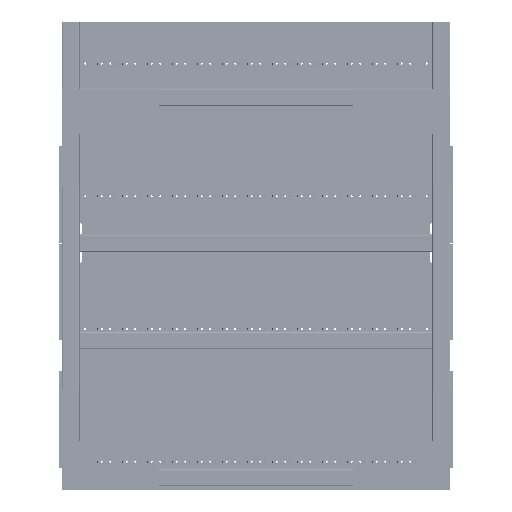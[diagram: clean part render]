
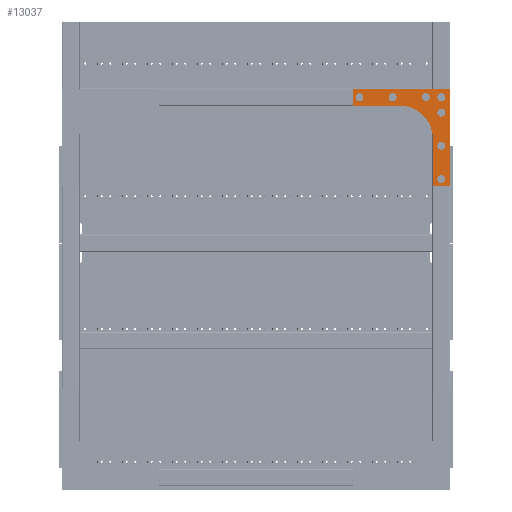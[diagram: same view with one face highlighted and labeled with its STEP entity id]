
A CAD part, left-side view. The second image highlights one B-rep face of the part: STEP entity #13037.
In plain terms, the highlighted planar face has unit normal (-1, 0, 0).
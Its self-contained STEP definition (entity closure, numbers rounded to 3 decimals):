
#13037=ADVANCED_FACE('',(#53698,#53699,#53700,#53701,#53702,#53703,#53704,
#53705),#19131,.F.);
#19131=PLANE('',#155181);
#29628=LINE('',#225011,#43846);
#29631=LINE('',#225017,#43849);
#29634=LINE('',#225023,#43852);
#29637=LINE('',#225029,#43855);
#29639=LINE('',#225033,#43857);
#29644=LINE('',#225043,#43862);
#43846=VECTOR('',#183819,1.);
#43849=VECTOR('',#183824,1.);
#43852=VECTOR('',#183829,1.);
#43855=VECTOR('',#183834,1.);
#43857=VECTOR('',#183838,1.);
#43862=VECTOR('',#183845,1.);
#53698=FACE_BOUND('',#63945,.T.);
#53699=FACE_BOUND('',#63946,.T.);
#53700=FACE_BOUND('',#63947,.T.);
#53701=FACE_BOUND('',#63948,.T.);
#53702=FACE_BOUND('',#63949,.T.);
#53703=FACE_BOUND('',#63950,.T.);
#53704=FACE_BOUND('',#63951,.T.);
#53705=FACE_BOUND('',#63952,.T.);
#63945=EDGE_LOOP('',(#92120));
#63946=EDGE_LOOP('',(#92121));
#63947=EDGE_LOOP('',(#92122));
#63948=EDGE_LOOP('',(#92123));
#63949=EDGE_LOOP('',(#92124));
#63950=EDGE_LOOP('',(#92125));
#63951=EDGE_LOOP('',(#92126));
#63952=EDGE_LOOP('',(#92127,#92128,#92129,#92130,#92131,#92132,#92133));
#92120=ORIENTED_EDGE('',*,*,#134215,.T.);
#92121=ORIENTED_EDGE('',*,*,#134216,.T.);
#92122=ORIENTED_EDGE('',*,*,#134217,.T.);
#92123=ORIENTED_EDGE('',*,*,#134218,.T.);
#92124=ORIENTED_EDGE('',*,*,#134219,.T.);
#92125=ORIENTED_EDGE('',*,*,#134220,.T.);
#92126=ORIENTED_EDGE('',*,*,#134221,.T.);
#92127=ORIENTED_EDGE('',*,*,#134198,.F.);
#92128=ORIENTED_EDGE('',*,*,#134214,.F.);
#92129=ORIENTED_EDGE('',*,*,#134222,.T.);
#92130=ORIENTED_EDGE('',*,*,#134209,.F.);
#92131=ORIENTED_EDGE('',*,*,#134207,.F.);
#92132=ORIENTED_EDGE('',*,*,#134204,.F.);
#92133=ORIENTED_EDGE('',*,*,#134201,.F.);
#116809=VERTEX_POINT('',#225010);
#116810=VERTEX_POINT('',#225012);
#116812=VERTEX_POINT('',#225018);
#116814=VERTEX_POINT('',#225024);
#116816=VERTEX_POINT('',#225030);
#116817=VERTEX_POINT('',#225034);
#116820=VERTEX_POINT('',#225042);
#116821=VERTEX_POINT('',#225046);
#116822=VERTEX_POINT('',#225048);
#116823=VERTEX_POINT('',#225050);
#116824=VERTEX_POINT('',#225052);
#116825=VERTEX_POINT('',#225054);
#116826=VERTEX_POINT('',#225056);
#116827=VERTEX_POINT('',#225058);
#134198=EDGE_CURVE('',#116809,#116810,#29628,.T.);
#134201=EDGE_CURVE('',#116810,#116812,#29631,.T.);
#134204=EDGE_CURVE('',#116812,#116814,#29634,.T.);
#134207=EDGE_CURVE('',#116814,#116816,#29637,.T.);
#134209=EDGE_CURVE('',#116816,#116817,#29639,.T.);
#134214=EDGE_CURVE('',#116820,#116809,#29644,.T.);
#134215=EDGE_CURVE('',#116821,#116821,#145357,.T.);
#134216=EDGE_CURVE('',#116822,#116822,#145358,.T.);
#134217=EDGE_CURVE('',#116823,#116823,#145359,.T.);
#134218=EDGE_CURVE('',#116824,#116824,#145360,.T.);
#134219=EDGE_CURVE('',#116825,#116825,#145361,.T.);
#134220=EDGE_CURVE('',#116826,#116826,#145362,.T.);
#134221=EDGE_CURVE('',#116827,#116827,#145363,.T.);
#134222=EDGE_CURVE('',#116820,#116817,#145364,.T.);
#145357=CIRCLE('',#155173,9.);
#145358=CIRCLE('',#155174,9.);
#145359=CIRCLE('',#155175,9.);
#145360=CIRCLE('',#155176,9.);
#145361=CIRCLE('',#155177,9.);
#145362=CIRCLE('',#155178,9.);
#145363=CIRCLE('',#155179,9.);
#145364=CIRCLE('',#155180,75.);
#155173=AXIS2_PLACEMENT_3D('',#225045,#183848,#183849);
#155174=AXIS2_PLACEMENT_3D('',#225047,#183850,#183851);
#155175=AXIS2_PLACEMENT_3D('',#225049,#183852,#183853);
#155176=AXIS2_PLACEMENT_3D('',#225051,#183854,#183855);
#155177=AXIS2_PLACEMENT_3D('',#225053,#183856,#183857);
#155178=AXIS2_PLACEMENT_3D('',#225055,#183858,#183859);
#155179=AXIS2_PLACEMENT_3D('',#225057,#183860,#183861);
#155180=AXIS2_PLACEMENT_3D('',#225059,#183862,#183863);
#155181=AXIS2_PLACEMENT_3D('',#225060,#183864,#183865);
#183819=DIRECTION('',(0.,0.,1.));
#183824=DIRECTION('',(0.,-1.,0.));
#183829=DIRECTION('',(0.,0.,-1.));
#183834=DIRECTION('',(0.,1.,0.));
#183838=DIRECTION('',(0.,0.,1.));
#183845=DIRECTION('',(0.,1.,0.));
#183848=DIRECTION('',(1.,0.,0.));
#183849=DIRECTION('',(0.,0.,1.));
#183850=DIRECTION('',(1.,0.,0.));
#183851=DIRECTION('',(0.,0.,1.));
#183852=DIRECTION('',(1.,0.,0.));
#183853=DIRECTION('',(0.,0.,1.));
#183854=DIRECTION('',(1.,0.,0.));
#183855=DIRECTION('',(0.,0.,1.));
#183856=DIRECTION('',(1.,0.,0.));
#183857=DIRECTION('',(0.,0.,1.));
#183858=DIRECTION('',(1.,0.,0.));
#183859=DIRECTION('',(0.,0.,1.));
#183860=DIRECTION('',(1.,0.,0.));
#183861=DIRECTION('',(0.,0.,1.));
#183862=DIRECTION('',(1.,0.,0.));
#183863=DIRECTION('',(0.,0.,1.));
#183864=DIRECTION('',(1.,0.,0.));
#183865=DIRECTION('',(0.,0.,1.));
#225010=CARTESIAN_POINT('',(-908.,-219.,336.));
#225011=CARTESIAN_POINT('',(-908.,-219.,336.));
#225012=CARTESIAN_POINT('',(-908.,-219.,374.));
#225017=CARTESIAN_POINT('',(-908.,0.,374.));
#225018=CARTESIAN_POINT('',(-908.,-438.,374.));
#225023=CARTESIAN_POINT('',(-908.,-438.,-70.));
#225024=CARTESIAN_POINT('',(-908.,-438.,155.));
#225029=CARTESIAN_POINT('',(-908.,-439.,155.));
#225030=CARTESIAN_POINT('',(-908.,-400.,155.));
#225033=CARTESIAN_POINT('',(-908.,-400.,155.));
#225034=CARTESIAN_POINT('',(-908.,-400.,261.));
#225042=CARTESIAN_POINT('',(-908.,-325.,336.));
#225043=CARTESIAN_POINT('',(-908.,-400.,336.));
#225045=CARTESIAN_POINT('',(-908.,-384.,355.));
#225046=CARTESIAN_POINT('',(-908.,-384.,364.));
#225047=CARTESIAN_POINT('',(-908.,-234.,355.));
#225048=CARTESIAN_POINT('',(-908.,-234.,364.));
#225049=CARTESIAN_POINT('',(-908.,-309.,355.));
#225050=CARTESIAN_POINT('',(-908.,-309.,364.));
#225051=CARTESIAN_POINT('',(-908.,-419.,170.));
#225052=CARTESIAN_POINT('',(-908.,-419.,179.));
#225053=CARTESIAN_POINT('',(-908.,-419.,245.));
#225054=CARTESIAN_POINT('',(-908.,-419.,254.));
#225055=CARTESIAN_POINT('',(-908.,-419.,355.));
#225056=CARTESIAN_POINT('',(-908.,-419.,364.));
#225057=CARTESIAN_POINT('',(-908.,-419.,320.));
#225058=CARTESIAN_POINT('',(-908.,-419.,329.));
#225059=CARTESIAN_POINT('',(-908.,-325.,261.));
#225060=CARTESIAN_POINT('',(-908.,0.,-70.));
